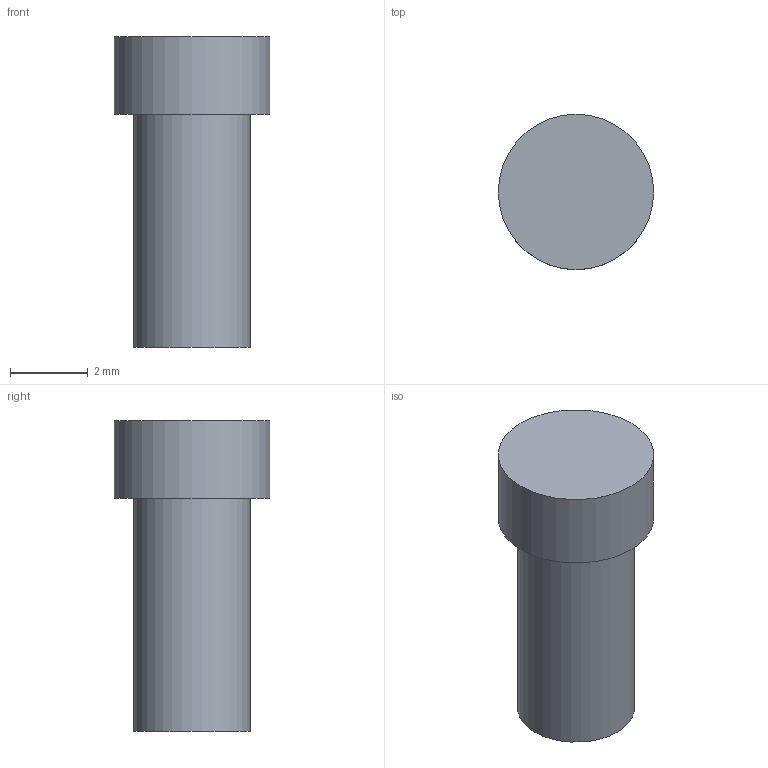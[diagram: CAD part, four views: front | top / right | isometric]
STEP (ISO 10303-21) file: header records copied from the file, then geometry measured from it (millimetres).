
FILE_DESCRIPTION(('Open CASCADE Model'),'2;1');
FILE_NAME('Open CASCADE Shape Model','2026-11-24T19:57:39',('Author'),( 'Open CASCADE'),'Open CASCADE STEP processor 7.8','Open CASCADE 7.8' ,'Unknown');
FILE_SCHEMA(('AUTOMOTIVE_DESIGN { 1 0 10303 214 1 1 1 1 }'));
Length unit declared in the file: millimetre
Products named in the file (1): Open CASCADE STEP translator 7.8 67
Bounding box: 4 x 4 x 8 mm (x, y, z)
Volume: 67.5 mm3; surface area: 106.8 mm2
Topology: 1 solids, 1 shells, 5 faces, 6 edges, 4 vertices
Faces by surface type: plane 3, cylinder 2
Full cylindrical faces by diameter (mm): 3 x1, 4 x1
Entity records: 190 total; most frequent: DIRECTION 32, CARTESIAN_POINT 30, ORIENTED_EDGE 12, PCURVE 12, DEFINITIONAL_REPRESENTATION 12, AXIS2_PLACEMENT_3D 10, CIRCLE 8, LINE 8
